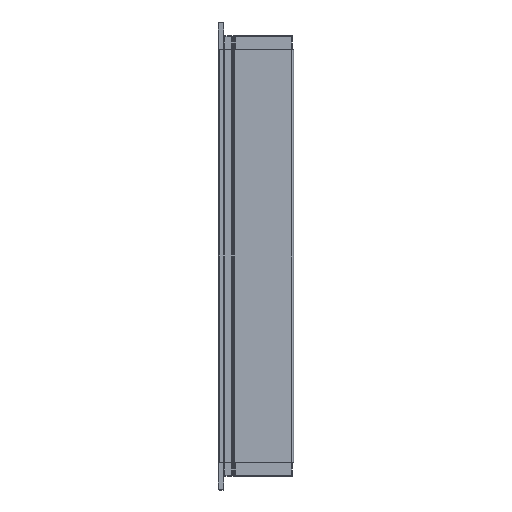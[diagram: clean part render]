
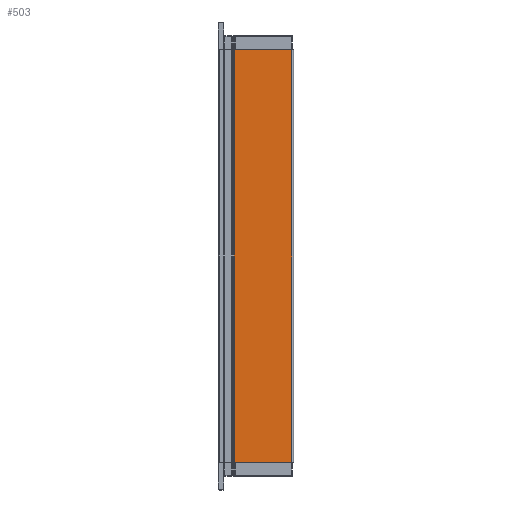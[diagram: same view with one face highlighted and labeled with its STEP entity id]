
A CAD part, left-side view. The second image highlights one B-rep face of the part: STEP entity #503.
In plain terms, the highlighted planar face has unit normal (-1, 0, 0).
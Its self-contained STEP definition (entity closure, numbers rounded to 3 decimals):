
#460 = ORIENTED_EDGE ( 'NONE', *, *, #2963, .F. ) ;
#503 = ADVANCED_FACE ( 'NONE', ( #5973 ), #5038, .T. ) ;
#561 = CARTESIAN_POINT ( 'NONE',  ( 2.7, -1.5, 0. ) ) ;
#748 = ORIENTED_EDGE ( 'NONE', *, *, #2925, .T. ) ;
#1042 = ORIENTED_EDGE ( 'NONE', *, *, #2850, .T. ) ;
#2342 = VERTEX_POINT ( 'NONE', #5542 ) ;
#2453 = CARTESIAN_POINT ( 'NONE',  ( 2.7, -23.55, 0. ) ) ;
#2565 = CARTESIAN_POINT ( 'NONE',  ( 2.7, -1.5, -150. ) ) ;
#2603 = DIRECTION ( 'NONE',  ( 0., 0., 1. ) ) ;
#2706 = LINE ( 'NONE', #2565, #2734 ) ;
#2734 = VECTOR ( 'NONE', #2603, 1000. ) ;
#2739 = VECTOR ( 'NONE', #2974, 1000. ) ;
#2747 = LINE ( 'NONE', #3047, #2739 ) ;
#2757 = VECTOR ( 'NONE', #4148, 1000. ) ;
#2762 = LINE ( 'NONE', #4234, #2757 ) ;
#2812 = VECTOR ( 'NONE', #4796, 1000. ) ;
#2814 = LINE ( 'NONE', #5307, #2812 ) ;
#2850 = EDGE_CURVE ( 'NONE', #2342, #3325, #2814, .T. ) ;
#2925 = EDGE_CURVE ( 'NONE', #3325, #6899, #2762, .T. ) ;
#2963 = EDGE_CURVE ( 'NONE', #5251, #6899, #2747, .T. ) ;
#2974 = DIRECTION ( 'NONE',  ( 0., -1., 0. ) ) ;
#3003 = EDGE_CURVE ( 'NONE', #2342, #5251, #2706, .T. ) ;
#3047 = CARTESIAN_POINT ( 'NONE',  ( 2.7, -1.5, 0. ) ) ;
#3266 = EDGE_LOOP ( 'NONE', ( #1042, #748, #460, #5640 ) ) ;
#3325 = VERTEX_POINT ( 'NONE', #5950 ) ;
#4148 = DIRECTION ( 'NONE',  ( 0., 0., 1. ) ) ;
#4234 = CARTESIAN_POINT ( 'NONE',  ( 2.7, -23.55, -150. ) ) ;
#4796 = DIRECTION ( 'NONE',  ( 0., -1., 0. ) ) ;
#5038 = PLANE ( 'NONE',  #5449 ) ;
#5174 = CARTESIAN_POINT ( 'NONE',  ( 2.7, -1.5, -150. ) ) ;
#5195 = DIRECTION ( 'NONE',  ( -1., 0., 0. ) ) ;
#5197 = DIRECTION ( 'NONE',  ( 0., -1., 0. ) ) ;
#5251 = VERTEX_POINT ( 'NONE', #561 ) ;
#5307 = CARTESIAN_POINT ( 'NONE',  ( 2.7, -1.5, -150. ) ) ;
#5449 = AXIS2_PLACEMENT_3D ( 'NONE', #5174, #5195, #5197 ) ;
#5542 = CARTESIAN_POINT ( 'NONE',  ( 2.7, -1.5, -150. ) ) ;
#5640 = ORIENTED_EDGE ( 'NONE', *, *, #3003, .F. ) ;
#5950 = CARTESIAN_POINT ( 'NONE',  ( 2.7, -23.55, -150. ) ) ;
#5973 = FACE_OUTER_BOUND ( 'NONE', #3266, .T. ) ;
#6899 = VERTEX_POINT ( 'NONE', #2453 ) ;
